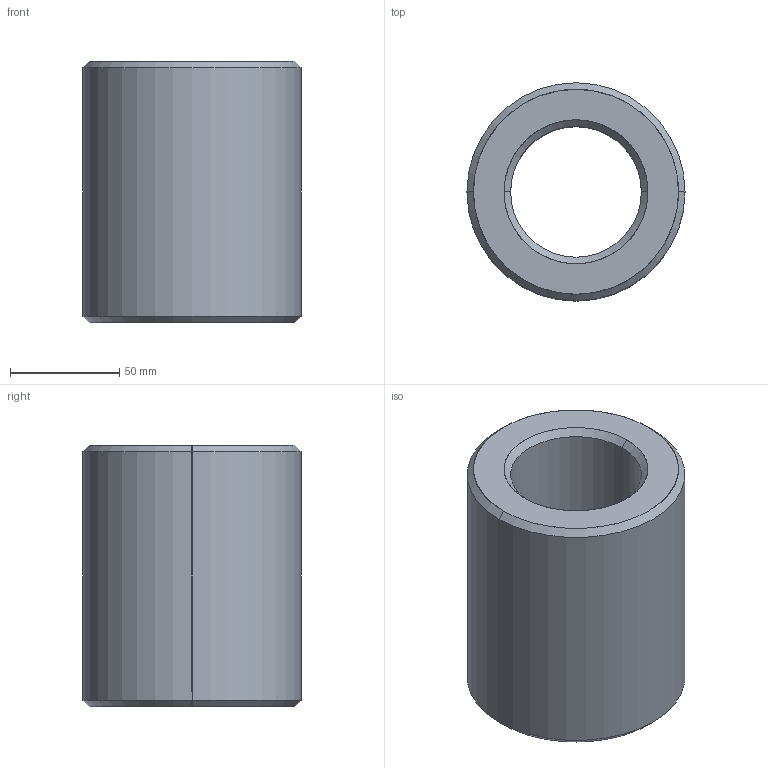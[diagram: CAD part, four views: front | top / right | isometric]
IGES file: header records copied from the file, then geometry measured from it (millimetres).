
Start section: SolidWorks IGES file using analytic representation for surfaces
Global section: file name: C:\Users\ianosborn\Desktop\L1330_v2\L1330_v2_20241024_IGES\L1330.R60-09.igs; native system: SolidWorks 2019; preprocessor: SolidWorks 2019; author: IanOsborn; date: 241024.103002; units: millimetre
Bounding box: 100 x 100 x 120 mm (x, y, z)
Surface area: 68605 mm2 (no closed solid volume)
Topology: 0 solids, 0 shells, 14 faces, 304 edges, 304 vertices
Faces by surface type: revolution 12, bspline 2
